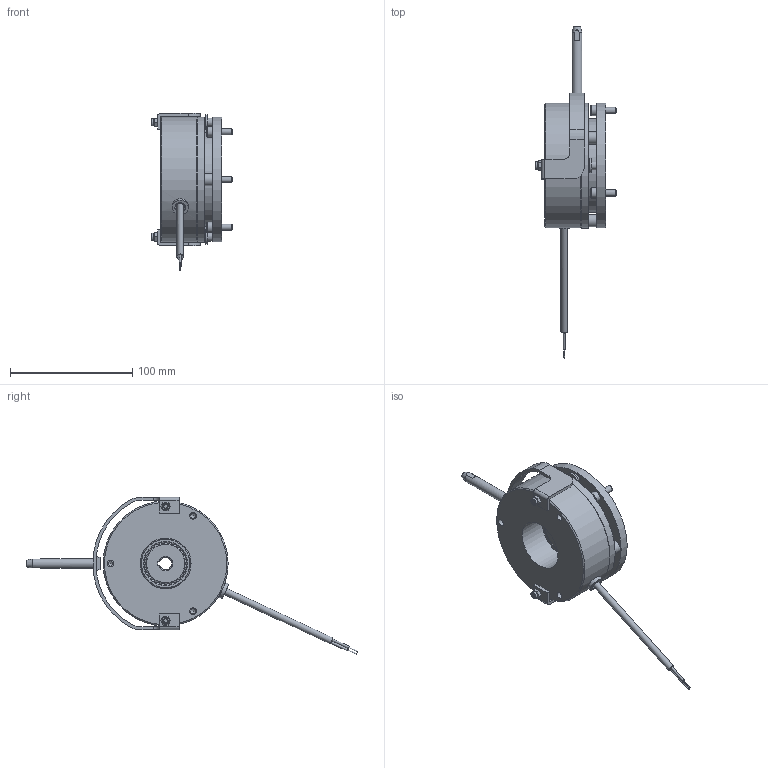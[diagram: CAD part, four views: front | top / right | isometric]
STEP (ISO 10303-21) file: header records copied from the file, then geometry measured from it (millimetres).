
FILE_DESCRIPTION(/* description */ (''),/* implementation_level */ '2;1');
FILE_NAME(/* name */ 'C:\SapWorkDir\Inventor\IP1\ConvertTempPath\5028668_IPT_000.ipt.stp',/* time_stamp */ '2020-09-16T14:51:18+02:00',/* author */ ('STRATE'),/* organization */ (''),/* preprocessor_version */ 'ST-DEVELOPER v17',/* originating_system */ 'Autodesk Inventor 2018',/* authorisation */ '');
FILE_SCHEMA (('AUTOMOTIVE_DESIGN { 1 0 10303 214 3 1 1 }'));
Length unit declared in the file: millimetre
Products named in the file (1): 5028668
Bounding box: 66.3 x 271.1 x 128.39 mm (x, y, z)
Volume: 345676.3 mm3; surface area: 89818.5 mm2
Topology: 2 solids, 2 shells, 566 faces, 1595 edges, 1076 vertices
Faces by surface type: cylinder 296, plane 175, cone 71, torus 22, bspline 2
Full cylindrical faces by diameter (mm): 1 x2, 1.85 x2, 3.242 x2, 4 x2, 4.134 x3, 4.3 x2, 5 x5, 5.3 x1, 5.4 x5, 5.5 x3, 5.9 x2, 6.6 x1, 7 x4, 7.1 x2, 8 x1, 8.5 x3, 9.3 x3, 10 x3, 10.6 x6, 12 x2, 13.2 x1, 41.5 x1, 42 x2, 55.5 x2, 56.1 x2, 76.5 x1, 102 x2, 102.1 x1
Entity records: 22271 total; most frequent: CARTESIAN_POINT 7056, ORIENTED_EDGE 3178, DIRECTION 2943, EDGE_CURVE 1589, AXIS2_PLACEMENT_3D 1186, VERTEX_POINT 1076, EDGE_LOOP 663, CIRCLE 597
